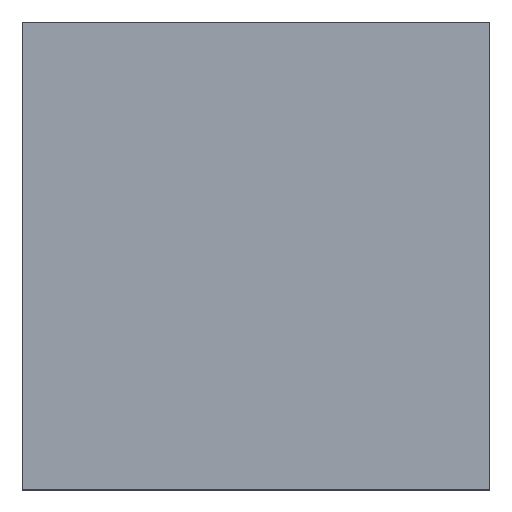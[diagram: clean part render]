
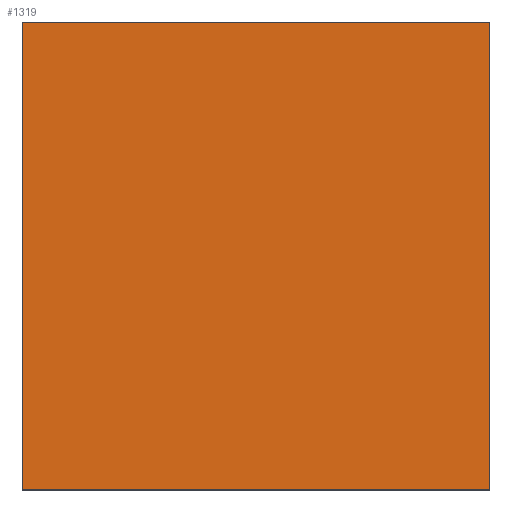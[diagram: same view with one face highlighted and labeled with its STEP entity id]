
A CAD part, top view. The second image highlights one B-rep face of the part: STEP entity #1319.
In plain terms, the highlighted planar face has unit normal (0, 0, 1).
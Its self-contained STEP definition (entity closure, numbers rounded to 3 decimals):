
#24 = ORIENTED_EDGE ( 'NONE', *, *, #328, .T. ) ;
#26 = ORIENTED_EDGE ( 'NONE', *, *, #539, .T. ) ;
#52 = CARTESIAN_POINT ( 'NONE',  ( 0., -399.5, 4. ) ) ;
#59 = DIRECTION ( 'NONE',  ( -1., 0., 0. ) ) ;
#72 = DIRECTION ( 'NONE',  ( 0., 0., -1. ) ) ;
#78 = VERTEX_POINT ( 'NONE', #263 ) ;
#145 = VECTOR ( 'NONE', #1037, 1000. ) ;
#163 = VECTOR ( 'NONE', #1082, 1000. ) ;
#184 = PLANE ( 'NONE',  #1054 ) ;
#259 = EDGE_LOOP ( 'NONE', ( #444, #26, #24, #1208 ) ) ;
#263 = CARTESIAN_POINT ( 'NONE',  ( 399.5, 399.5, 4. ) ) ;
#312 = LINE ( 'NONE', #52, #1288 ) ;
#328 = EDGE_CURVE ( 'NONE', #834, #1439, #758, .T. ) ;
#444 = ORIENTED_EDGE ( 'NONE', *, *, #775, .T. ) ;
#446 = VERTEX_POINT ( 'NONE', #538 ) ;
#487 = CARTESIAN_POINT ( 'NONE',  ( -399.5, 399.5, 4. ) ) ;
#505 = VECTOR ( 'NONE', #1423, 1000. ) ;
#521 = LINE ( 'NONE', #920, #145 ) ;
#538 = CARTESIAN_POINT ( 'NONE',  ( 399.5, -399.5, 4. ) ) ;
#539 = EDGE_CURVE ( 'NONE', #78, #834, #1121, .T. ) ;
#550 = FACE_OUTER_BOUND ( 'NONE', #259, .T. ) ;
#730 = CARTESIAN_POINT ( 'NONE',  ( -399.5, 0., 4. ) ) ;
#749 = CARTESIAN_POINT ( 'NONE',  ( 0., 0., 4. ) ) ;
#758 = LINE ( 'NONE', #730, #163 ) ;
#775 = EDGE_CURVE ( 'NONE', #446, #78, #521, .T. ) ;
#834 = VERTEX_POINT ( 'NONE', #487 ) ;
#920 = CARTESIAN_POINT ( 'NONE',  ( 399.5, 0., 4. ) ) ;
#1009 = EDGE_CURVE ( 'NONE', #1439, #446, #312, .T. ) ;
#1037 = DIRECTION ( 'NONE',  ( 0., 1., 0. ) ) ;
#1054 = AXIS2_PLACEMENT_3D ( 'NONE', #749, #72, #59 ) ;
#1082 = DIRECTION ( 'NONE',  ( 0., -1., 0. ) ) ;
#1121 = LINE ( 'NONE', #1207, #505 ) ;
#1183 = DIRECTION ( 'NONE',  ( 1., 0., 0. ) ) ;
#1207 = CARTESIAN_POINT ( 'NONE',  ( 0., 399.5, 4. ) ) ;
#1208 = ORIENTED_EDGE ( 'NONE', *, *, #1009, .T. ) ;
#1228 = CARTESIAN_POINT ( 'NONE',  ( -399.5, -399.5, 4. ) ) ;
#1288 = VECTOR ( 'NONE', #1183, 1000. ) ;
#1319 = ADVANCED_FACE ( 'NONE', ( #550 ), #184, .F. ) ;
#1423 = DIRECTION ( 'NONE',  ( -1., 0., 0. ) ) ;
#1439 = VERTEX_POINT ( 'NONE', #1228 ) ;
